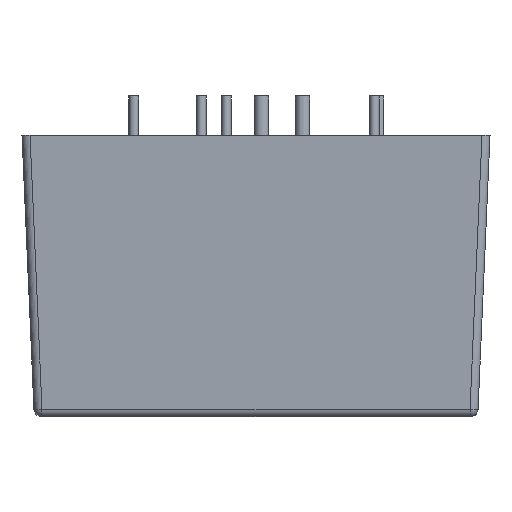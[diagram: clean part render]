
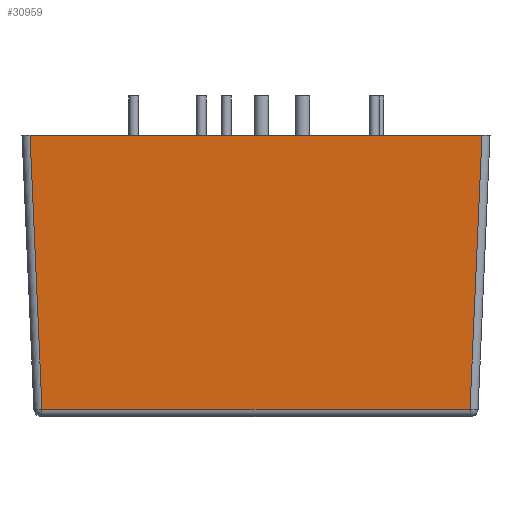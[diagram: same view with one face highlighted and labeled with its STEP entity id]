
A CAD part, left-side view. The second image highlights one B-rep face of the part: STEP entity #30959.
In plain terms, the highlighted planar face has unit normal (-0.999, 0, -0.044) as drawn and (-0.999, 0, 0.044) by its records, which use the part's own axes.
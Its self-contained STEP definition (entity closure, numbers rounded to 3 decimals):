
#4560=PLANE($,#32179);
#5550=FACE_OUTER_BOUND($,#6728,.T.);
#6728=EDGE_LOOP($,(#24985,#24986,#24987,#24988));
#8165=LINE($,#43061,#13705);
#8170=LINE($,#43082,#13710);
#8172=LINE($,#43088,#13712);
#8179=LINE($,#43105,#13719);
#13705=VECTOR($,#33831,34.108);
#13710=VECTOR($,#33856,53.229);
#13712=VECTOR($,#33862,34.108);
#13719=VECTOR($,#33881,56.202);
#19500=VERTEX_POINT($,#43049);
#19503=VERTEX_POINT($,#43059);
#19508=VERTEX_POINT($,#43072);
#19510=VERTEX_POINT($,#43084);
#21662=EDGE_CURVE($,#19503,#19500,#8165,.T.);
#21673=EDGE_CURVE($,#19500,#19508,#8170,.T.);
#21676=EDGE_CURVE($,#19508,#19510,#8172,.T.);
#21685=EDGE_CURVE($,#19503,#19510,#8179,.T.);
#24985=ORIENTED_EDGE($,*,*,#21676,.F.);
#24986=ORIENTED_EDGE($,*,*,#21673,.F.);
#24987=ORIENTED_EDGE($,*,*,#21662,.F.);
#24988=ORIENTED_EDGE($,*,*,#21685,.T.);
#30959=ADVANCED_FACE($,(#5550),#4560,.T.);
#32179=AXIS2_PLACEMENT_3D($,#43104,#33879,#33880);
#33831=DIRECTION($,(0.044,-0.044,0.998));
#33856=DIRECTION($,(0.,-1.,0.));
#33862=DIRECTION($,(-0.044,-0.044,-0.998));
#33879=DIRECTION('center_axis',(-0.999,0.,
0.044));
#33880=DIRECTION('ref_axis',(0.,1.,0.));
#33881=DIRECTION($,(0.,-1.,0.));
#43049=CARTESIAN_POINT('',(-0.042,54.187,-0.956));
#43059=CARTESIAN_POINT('',(-1.528,55.673,-35.));
#43061=CARTESIAN_POINT($,(0.074,54.07,1.706));
#43072=CARTESIAN_POINT('',(-0.042,0.957,-0.956));
#43082=CARTESIAN_POINT($,(-0.042,41.358,-0.956));
#43084=CARTESIAN_POINT('',(-1.528,-0.529,-35.));
#43088=CARTESIAN_POINT($,(0.05,1.05,1.156));
#43104=CARTESIAN_POINT('Origin',(0.,55.144,0.));
#43105=CARTESIAN_POINT($,(-1.528,55.144,-35.));
